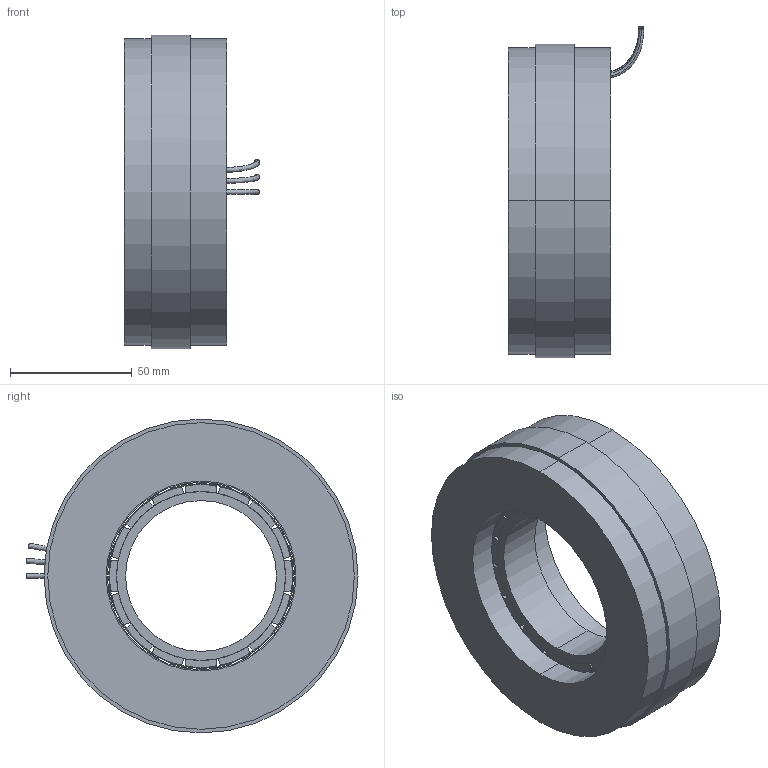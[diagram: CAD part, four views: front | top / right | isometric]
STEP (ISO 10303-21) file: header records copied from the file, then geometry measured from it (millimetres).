
FILE_DESCRIPTION (( 'STEP AP203' ), '1' );
FILE_NAME ('KMF-129AMNN 軞蚾饜芞潠芞.STEP', '2020-05-15T06:00:32', ( '' ), ( '' ), 'SwSTEP 2.0', 'SolidWorks 2016', '' );
FILE_SCHEMA (( 'CONFIG_CONTROL_DESIGN' ));
Length unit declared in the file: millimetre
Products named in the file (6): KMF012A2001 隅赽郪璃潠芞; KMF012P1701 抯玹峎杶奪; KMF01203401 磁钢（129）; KMF012A3001 蛌赽郪璃; KMF012P1301 棠濎; KMF-129AMNN 軞蚾饜芞潠芞
Assembly tree (20 placements, depth 3):
  KMF-129AMNN 軞蚾饜芞潠芞
    KMF012A2001 隅赽郪璃潠芞
    KMF012A3001 蛌赽郪璃
      KMF012P1301 棠濎
      KMF01203401 磁钢（129）  x16
      KMF012P1701 抯玹峎杶奪
Bounding box: 55.55 x 136.44 x 129 mm (x, y, z)
Volume: 360790.2 mm3; surface area: 72263.8 mm2
Topology: 19 solids, 19 shells, 199 faces, 462 edges, 308 vertices
Faces by surface type: cylinder 116, plane 77, bspline 6
Entity records: 2804 total; most frequent: CARTESIAN_POINT 615, DIRECTION 294, ORIENTED_EDGE 204, AXIS2_PLACEMENT_3D 131, EDGE_CURVE 102, COORDINATED_UNIVERSAL_TIME_OFFSET 70, CALENDAR_DATE 70, LOCAL_TIME 70
